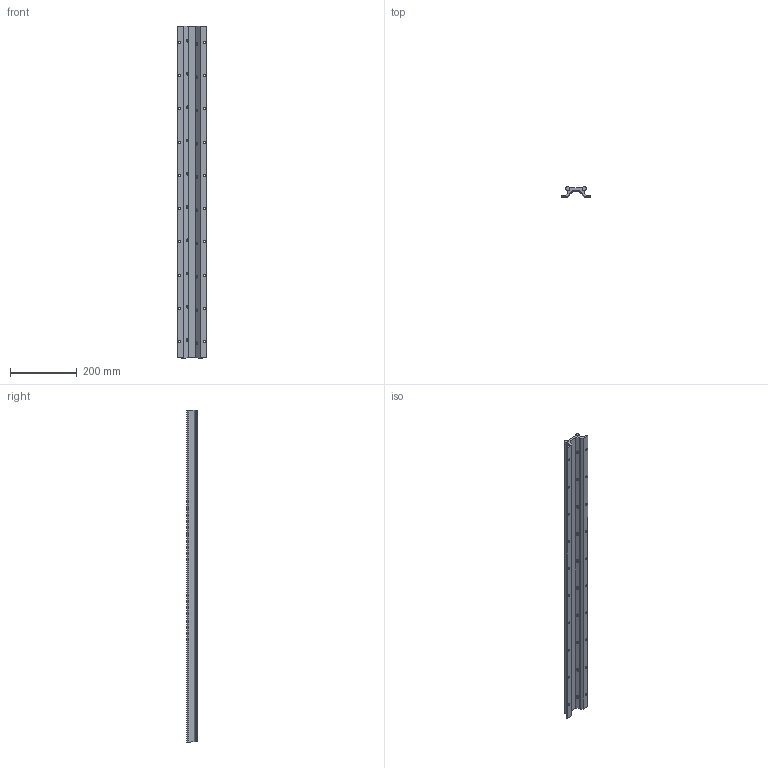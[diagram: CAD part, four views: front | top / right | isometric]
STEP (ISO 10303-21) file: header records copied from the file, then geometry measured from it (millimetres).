
FILE_DESCRIPTION (( 'STEP AP203' ), '1' );
FILE_NAME ('LF 3_-_LF 2 998 mm lang.step', '2005-06-03T06:31:26', ( ' ' ), ( ' ' ), 'SwSTEP 2.0', 'SolidWorks 2004231', '' );
FILE_SCHEMA (( 'CONFIG_CONTROL_DESIGN' ));
Length unit declared in the file: millimetre
Products named in the file (1): LF 3_-_LF 2  998 mm lang
Bounding box: 90 x 31 x 998 mm (x, y, z)
Volume: 1044224.7 mm3; surface area: 322744.7 mm2
Topology: 1 solids, 1 shells, 484 faces, 1230 edges, 744 vertices
Faces by surface type: cylinder 214, plane 190, torus 40, cone 40
Entity records: 14751 total; most frequent: CARTESIAN_POINT 3719, ORIENTED_EDGE 2380, DIRECTION 2116, EDGE_CURVE 1190, VERTEX_POINT 744, AXIS2_PLACEMENT_3D 741, VECTOR 634, LINE 634
